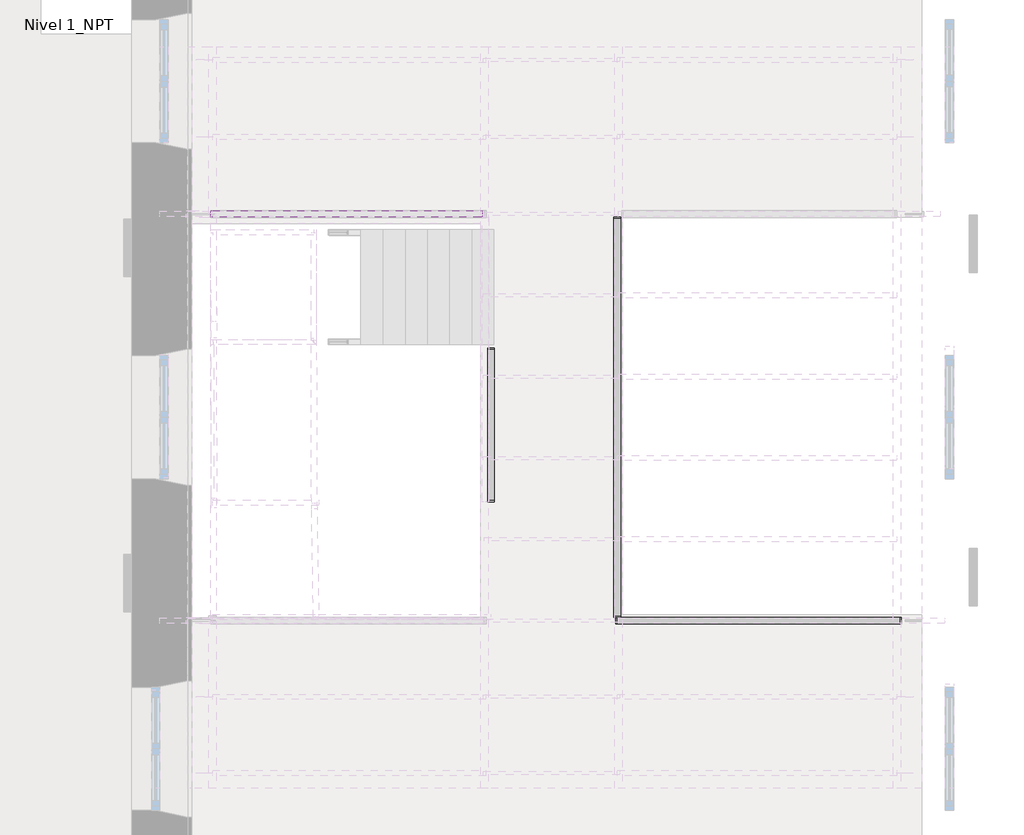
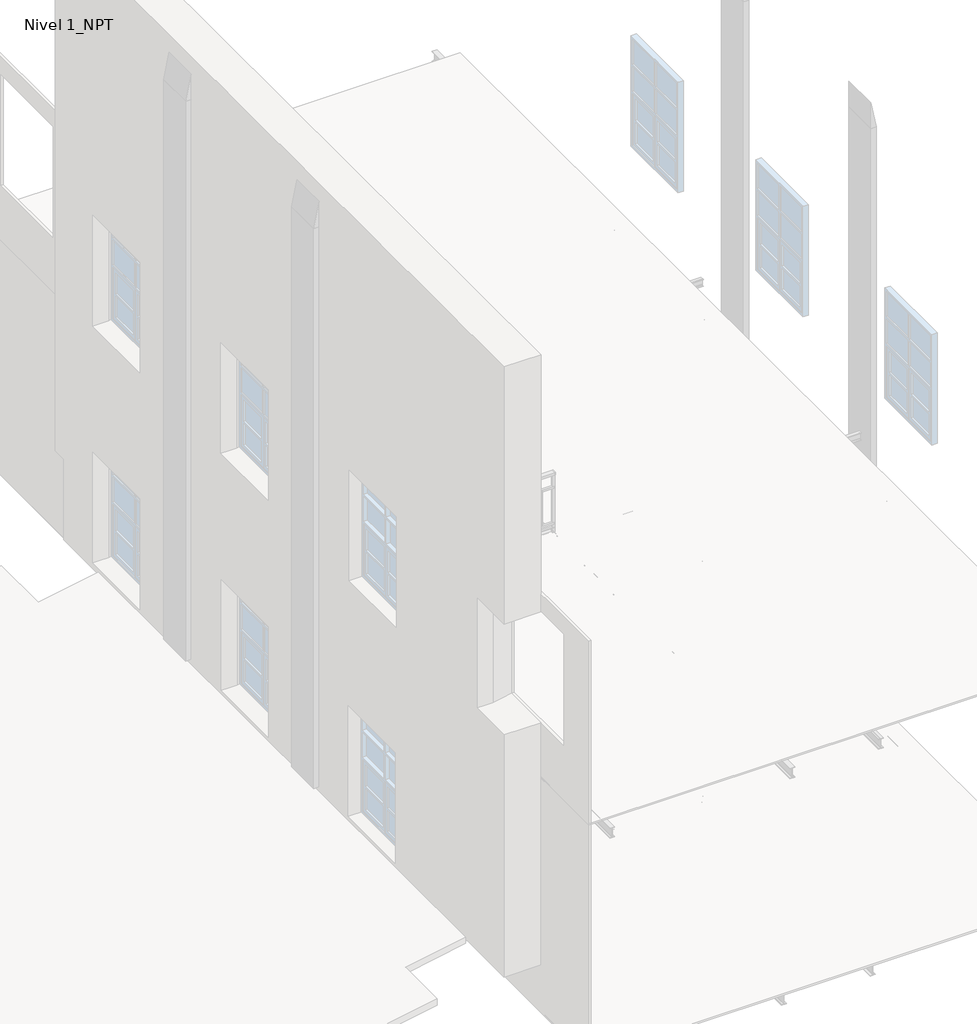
# One storey, part 5 of 6: 4 railings.
"""IFC4 building model written with IfcOpenShell, lengths in millimetres."""

from ifc_helpers import new_model, si_unit, point, frame, frame_2d, origin, place, context, project, spatial, polyline, circle_curve, trimmed, segment, composite_curve, outline, extrude, faceted_brep, element, save

model = new_model("IFC4")

# Units and contexts
model_context = context("Model", 3, world=origin())
ifc_project = project(units=[si_unit("LENGTHUNIT", "METRE", prefix="MILLI")], contexts=[model_context])

# Site, building, storey
site = spatial("IfcSite", under=ifc_project)
building = spatial("IfcBuilding", under=site)
storey = spatial("IfcBuildingStorey", under=building, Name="Nivel 1_NPT", Elevation=4940.0)

# Railings
placement = place(None, origin())
element("IfcRailing", 1, ObjectType="ARQ-BA-IN-118-Hi-Ba3", at=placement, inside=storey, context=model_context, shape_type="SolidModel", body=[
    faceted_brep([(11260.8126262, 1524.5940615, 6070.0), (11260.8126262, 1524.5940615, 6120.0), (14699.9777112, 1524.5940615, 6120.0), (14699.9777112, 1524.5940615, 6070.0), (11260.8126262, 1444.5940615, 6070.0), (14699.9777112, 1444.5940615, 6070.0), (11260.8126262, 1444.5940615, 6120.0), (14699.9777112, 1444.5940615, 6120.0), (14719.9777112, 1524.5940615, 6120.0), (14719.9777112, 1444.5940615, 6120.0), (14719.9777112, 1444.5940615, 6070.0), (14719.9777112, 1524.5940615, 6070.0), (11240.8126262, 1524.5940615, 6120.0), (11240.8126262, 1524.5940615, 6070.0), (11240.8126262, 1444.5940615, 6070.0), (11240.8126262, 1444.5940615, 6120.0)], [[[0, 1, 2, 3]], [[4, 0, 3, 5]], [[6, 4, 5, 7]], [[1, 6, 7, 2]], [[8, 9, 10, 11]], [[3, 2, 8, 11]], [[5, 3, 11, 10]], [[7, 5, 10, 9]], [[2, 7, 9, 8]], [[12, 13, 14, 15]], [[13, 12, 1, 0]], [[14, 13, 0, 4]], [[15, 14, 4, 6]], [[12, 15, 6, 1]]]),
    extrude(outline(polyline([(11260.8126262, 1464.5940615), (11260.8126262, 1504.5940615), (14699.9777112, 1504.5940615), (14699.9777112, 1464.5940615), (11260.8126262, 1464.5940615)])), frame((0.0, 0.0, 5800.0), z_axis=(0.0, 0.0, 1.0), x_axis=(1.0, 0.0, 0.0)), (0.0, 0.0, 1.0), 40.0),
    extrude(outline(polyline([(11260.8126262, 1464.5940615), (11260.8126262, 1504.5940615), (14699.9777112, 1504.5940615), (14699.9777112, 1464.5940615), (11260.8126262, 1464.5940615)])), frame((0.0, 0.0, 5100.0), z_axis=(0.0, 0.0, 1.0), x_axis=(1.0, 0.0, 0.0)), (0.0, 0.0, 1.0), 40.0),
    extrude(outline(polyline([(11260.8126262, 1464.5940615), (11260.8126262, 1504.5940615), (14699.9777112, 1504.5940615), (14699.9777112, 1464.5940615), (11260.8126262, 1464.5940615)])), frame((0.0, 0.0, 5034.0), z_axis=(0.0, 0.0, 1.0), x_axis=(1.0, 0.0, 0.0)), (0.0, 0.0, 1.0), 6.0),
    extrude(outline(composite_curve([segment(trimmed(circle_curve(frame_2d((14485.0298934, 1484.5940615)), 10.0), [point((14485.0298934, 1494.5940615))], [point((14485.0298934, 1474.5940615))], False, "CARTESIAN"), True, "CONTINUOUS"), segment(trimmed(circle_curve(frame_2d((14485.0298934, 1484.5940615)), 10.0), [point((14485.0298934, 1474.5940615))], [point((14485.0298934, 1494.5940615))], False, "CARTESIAN"), True, "CONTINUOUS")], self_intersect=False)), frame((0.0, 0.0, 5140.0), z_axis=(0.0, 0.0, 1.0), x_axis=(1.0, 0.0, 0.0)), (0.0, 0.0, 1.0), 660.0),
    extrude(outline(composite_curve([segment(trimmed(circle_curve(frame_2d((14270.0820755, 1484.5940615)), 10.0), [point((14270.0820755, 1494.5940615))], [point((14270.0820755, 1474.5940615))], False, "CARTESIAN"), True, "CONTINUOUS"), segment(trimmed(circle_curve(frame_2d((14270.0820755, 1484.5940615)), 10.0), [point((14270.0820755, 1474.5940615))], [point((14270.0820755, 1494.5940615))], False, "CARTESIAN"), True, "CONTINUOUS")], self_intersect=False)), frame((0.0, 0.0, 5140.0), z_axis=(0.0, 0.0, 1.0), x_axis=(1.0, 0.0, 0.0)), (0.0, 0.0, 1.0), 660.0),
    extrude(outline(composite_curve([segment(trimmed(circle_curve(frame_2d((14055.1342577, 1484.5940615)), 10.0), [point((14055.1342577, 1494.5940615))], [point((14055.1342577, 1474.5940615))], False, "CARTESIAN"), True, "CONTINUOUS"), segment(trimmed(circle_curve(frame_2d((14055.1342577, 1484.5940615)), 10.0), [point((14055.1342577, 1474.5940615))], [point((14055.1342577, 1494.5940615))], False, "CARTESIAN"), True, "CONTINUOUS")], self_intersect=False)), frame((0.0, 0.0, 5140.0), z_axis=(0.0, 0.0, 1.0), x_axis=(1.0, 0.0, 0.0)), (0.0, 0.0, 1.0), 660.0),
    extrude(outline(polyline([(13820.1864399, 1464.5940615), (13820.1864399, 1504.5940615), (13860.1864399, 1504.5940615), (13860.1864399, 1464.5940615), (13820.1864399, 1464.5940615)])), frame((0.0, 0.0, 4940.0), z_axis=(0.0, 0.0, 1.0), x_axis=(1.0, 0.0, 0.0)), (0.0, 0.0, 1.0), 1130.0),
    extrude(outline(composite_curve([segment(trimmed(circle_curve(frame_2d((13625.2386221, 1484.5940615)), 10.0), [point((13625.2386221, 1494.5940615))], [point((13625.2386221, 1474.5940615))], False, "CARTESIAN"), True, "CONTINUOUS"), segment(trimmed(circle_curve(frame_2d((13625.2386221, 1484.5940615)), 10.0), [point((13625.2386221, 1474.5940615))], [point((13625.2386221, 1494.5940615))], False, "CARTESIAN"), True, "CONTINUOUS")], self_intersect=False)), frame((0.0, 0.0, 5140.0), z_axis=(0.0, 0.0, 1.0), x_axis=(1.0, 0.0, 0.0)), (0.0, 0.0, 1.0), 660.0),
    extrude(outline(composite_curve([segment(trimmed(circle_curve(frame_2d((13410.2908043, 1484.5940615)), 10.0), [point((13410.2908043, 1494.5940615))], [point((13410.2908043, 1474.5940615))], False, "CARTESIAN"), True, "CONTINUOUS"), segment(trimmed(circle_curve(frame_2d((13410.2908043, 1484.5940615)), 10.0), [point((13410.2908043, 1474.5940615))], [point((13410.2908043, 1494.5940615))], False, "CARTESIAN"), True, "CONTINUOUS")], self_intersect=False)), frame((0.0, 0.0, 5140.0), z_axis=(0.0, 0.0, 1.0), x_axis=(1.0, 0.0, 0.0)), (0.0, 0.0, 1.0), 660.0),
    extrude(outline(composite_curve([segment(trimmed(circle_curve(frame_2d((13195.3429865, 1484.5940615)), 10.0), [point((13195.3429865, 1494.5940615))], [point((13195.3429865, 1474.5940615))], False, "CARTESIAN"), True, "CONTINUOUS"), segment(trimmed(circle_curve(frame_2d((13195.3429865, 1484.5940615)), 10.0), [point((13195.3429865, 1474.5940615))], [point((13195.3429865, 1494.5940615))], False, "CARTESIAN"), True, "CONTINUOUS")], self_intersect=False)), frame((0.0, 0.0, 5140.0), z_axis=(0.0, 0.0, 1.0), x_axis=(1.0, 0.0, 0.0)), (0.0, 0.0, 1.0), 660.0),
    extrude(outline(polyline([(12960.3951687, 1464.5940615), (12960.3951687, 1504.5940615), (13000.3951687, 1504.5940615), (13000.3951687, 1464.5940615), (12960.3951687, 1464.5940615)])), frame((0.0, 0.0, 4940.0), z_axis=(0.0, 0.0, 1.0), x_axis=(1.0, 0.0, 0.0)), (0.0, 0.0, 1.0), 1130.0),
    extrude(outline(composite_curve([segment(trimmed(circle_curve(frame_2d((12765.4473509, 1484.5940615)), 10.0), [point((12765.4473509, 1494.5940615))], [point((12765.4473509, 1474.5940615))], False, "CARTESIAN"), True, "CONTINUOUS"), segment(trimmed(circle_curve(frame_2d((12765.4473509, 1484.5940615)), 10.0), [point((12765.4473509, 1474.5940615))], [point((12765.4473509, 1494.5940615))], False, "CARTESIAN"), True, "CONTINUOUS")], self_intersect=False)), frame((0.0, 0.0, 5140.0), z_axis=(0.0, 0.0, 1.0), x_axis=(1.0, 0.0, 0.0)), (0.0, 0.0, 1.0), 660.0),
    extrude(outline(composite_curve([segment(trimmed(circle_curve(frame_2d((12550.4995331, 1484.5940615)), 10.0), [point((12550.4995331, 1494.5940615))], [point((12550.4995331, 1474.5940615))], False, "CARTESIAN"), True, "CONTINUOUS"), segment(trimmed(circle_curve(frame_2d((12550.4995331, 1484.5940615)), 10.0), [point((12550.4995331, 1474.5940615))], [point((12550.4995331, 1494.5940615))], False, "CARTESIAN"), True, "CONTINUOUS")], self_intersect=False)), frame((0.0, 0.0, 5140.0), z_axis=(0.0, 0.0, 1.0), x_axis=(1.0, 0.0, 0.0)), (0.0, 0.0, 1.0), 660.0),
    extrude(outline(composite_curve([segment(trimmed(circle_curve(frame_2d((12335.5517152, 1484.5940615)), 10.0), [point((12335.5517152, 1494.5940615))], [point((12335.5517152, 1474.5940615))], False, "CARTESIAN"), True, "CONTINUOUS"), segment(trimmed(circle_curve(frame_2d((12335.5517152, 1484.5940615)), 10.0), [point((12335.5517152, 1474.5940615))], [point((12335.5517152, 1494.5940615))], False, "CARTESIAN"), True, "CONTINUOUS")], self_intersect=False)), frame((0.0, 0.0, 5140.0), z_axis=(0.0, 0.0, 1.0), x_axis=(1.0, 0.0, 0.0)), (0.0, 0.0, 1.0), 660.0),
    extrude(outline(polyline([(12100.6038974, 1464.5940615), (12100.6038974, 1504.5940615), (12140.6038974, 1504.5940615), (12140.6038974, 1464.5940615), (12100.6038974, 1464.5940615)])), frame((0.0, 0.0, 4940.0), z_axis=(0.0, 0.0, 1.0), x_axis=(1.0, 0.0, 0.0)), (0.0, 0.0, 1.0), 1130.0),
    extrude(outline(composite_curve([segment(trimmed(circle_curve(frame_2d((11905.6560796, 1484.5940615)), 10.0), [point((11905.6560796, 1494.5940615))], [point((11905.6560796, 1474.5940615))], False, "CARTESIAN"), True, "CONTINUOUS"), segment(trimmed(circle_curve(frame_2d((11905.6560796, 1484.5940615)), 10.0), [point((11905.6560796, 1474.5940615))], [point((11905.6560796, 1494.5940615))], False, "CARTESIAN"), True, "CONTINUOUS")], self_intersect=False)), frame((0.0, 0.0, 5140.0), z_axis=(0.0, 0.0, 1.0), x_axis=(1.0, 0.0, 0.0)), (0.0, 0.0, 1.0), 660.0),
    extrude(outline(composite_curve([segment(trimmed(circle_curve(frame_2d((11690.7082618, 1484.5940615)), 10.0), [point((11690.7082618, 1494.5940615))], [point((11690.7082618, 1474.5940615))], False, "CARTESIAN"), True, "CONTINUOUS"), segment(trimmed(circle_curve(frame_2d((11690.7082618, 1484.5940615)), 10.0), [point((11690.7082618, 1474.5940615))], [point((11690.7082618, 1494.5940615))], False, "CARTESIAN"), True, "CONTINUOUS")], self_intersect=False)), frame((0.0, 0.0, 5140.0), z_axis=(0.0, 0.0, 1.0), x_axis=(1.0, 0.0, 0.0)), (0.0, 0.0, 1.0), 660.0),
    extrude(outline(composite_curve([segment(trimmed(circle_curve(frame_2d((11475.760444, 1484.5940615)), 10.0), [point((11475.760444, 1494.5940615))], [point((11475.760444, 1474.5940615))], False, "CARTESIAN"), True, "CONTINUOUS"), segment(trimmed(circle_curve(frame_2d((11475.760444, 1484.5940615)), 10.0), [point((11475.760444, 1474.5940615))], [point((11475.760444, 1494.5940615))], False, "CARTESIAN"), True, "CONTINUOUS")], self_intersect=False)), frame((0.0, 0.0, 5140.0), z_axis=(0.0, 0.0, 1.0), x_axis=(1.0, 0.0, 0.0)), (0.0, 0.0, 1.0), 660.0),
    extrude(outline(polyline([(14679.9777112, 1464.5940615), (14679.9777112, 1504.5940615), (14719.9777112, 1504.5940615), (14719.9777112, 1464.5940615), (14679.9777112, 1464.5940615)])), frame((0.0, 0.0, 4940.0), z_axis=(0.0, 0.0, 1.0), x_axis=(1.0, 0.0, 0.0)), (0.0, 0.0, 1.0), 1130.0),
    extrude(outline(polyline([(11240.8126262, 1464.5940615), (11240.8126262, 1504.5940615), (11280.8126262, 1504.5940615), (11280.8126262, 1464.5940615), (11240.8126262, 1464.5940615)])), frame((0.0, 0.0, 4940.0), z_axis=(0.0, 0.0, 1.0), x_axis=(1.0, 0.0, 0.0)), (0.0, 0.0, 1.0), 1130.0),
])
element("IfcRailing", 2, ObjectType="ARQ-BA-IN-118-Hi-Ba4", at=placement, inside=storey, context=model_context, shape_type="SolidModel", body=[
    faceted_brep([(11220.8126262, 1544.6072273, 6070.0), (11220.8126262, 1544.6072273, 6120.0), (11220.8126262, 6380.6072273, 6120.0), (11220.8126262, 6380.6072273, 6070.0), (11300.8126262, 1544.6072273, 6070.0), (11300.8126262, 6380.6072273, 6070.0), (11300.8126262, 1544.6072273, 6120.0), (11300.8126262, 6380.6072273, 6120.0), (11220.8126262, 6400.6072273, 6120.0), (11300.8126262, 6400.6072273, 6120.0), (11300.8126262, 6400.6072273, 6070.0), (11220.8126262, 6400.6072273, 6070.0), (11220.8126262, 1524.6072273, 6120.0), (11220.8126262, 1524.6072273, 6070.0), (11300.8126262, 1524.6072273, 6070.0), (11300.8126262, 1524.6072273, 6120.0)], [[[0, 1, 2, 3]], [[4, 0, 3, 5]], [[6, 4, 5, 7]], [[1, 6, 7, 2]], [[8, 9, 10, 11]], [[3, 2, 8, 11]], [[5, 3, 11, 10]], [[7, 5, 10, 9]], [[2, 7, 9, 8]], [[12, 13, 14, 15]], [[13, 12, 1, 0]], [[14, 13, 0, 4]], [[15, 14, 4, 6]], [[12, 15, 6, 1]]]),
    extrude(outline(polyline([(11280.8126262, 1544.6072273), (11240.8126262, 1544.6072273), (11240.8126262, 6380.6072273), (11280.8126262, 6380.6072273), (11280.8126262, 1544.6072273)])), frame((0.0, 0.0, 5800.0), z_axis=(0.0, 0.0, 1.0), x_axis=(1.0, 0.0, 0.0)), (0.0, 0.0, 1.0), 40.0),
    extrude(outline(polyline([(11280.8126262, 1544.6072273), (11240.8126262, 1544.6072273), (11240.8126262, 6380.6072273), (11280.8126262, 6380.6072273), (11280.8126262, 1544.6072273)])), frame((0.0, 0.0, 5100.0), z_axis=(0.0, 0.0, 1.0), x_axis=(1.0, 0.0, 0.0)), (0.0, 0.0, 1.0), 40.0),
    extrude(outline(polyline([(11280.8126262, 1544.6072273), (11240.8126262, 1544.6072273), (11240.8126262, 6380.6072273), (11280.8126262, 6380.6072273), (11280.8126262, 1544.6072273)])), frame((0.0, 0.0, 5034.0), z_axis=(0.0, 0.0, 1.0), x_axis=(1.0, 0.0, 0.0)), (0.0, 0.0, 1.0), 6.0),
    extrude(outline(composite_curve([segment(trimmed(circle_curve(frame_2d((11260.8126262, 6179.1072273)), 10.0), [point((11250.8126262, 6179.1072273))], [point((11270.8126262, 6179.1072273))], False, "CARTESIAN"), True, "CONTINUOUS"), segment(trimmed(circle_curve(frame_2d((11260.8126262, 6179.1072273)), 10.0), [point((11270.8126262, 6179.1072273))], [point((11250.8126262, 6179.1072273))], False, "CARTESIAN"), True, "CONTINUOUS")], self_intersect=False)), frame((0.0, 0.0, 5140.0), z_axis=(0.0, 0.0, 1.0), x_axis=(1.0, 0.0, 0.0)), (0.0, 0.0, 1.0), 660.0),
    extrude(outline(composite_curve([segment(trimmed(circle_curve(frame_2d((11260.8126262, 5977.6072273)), 10.0), [point((11250.8126262, 5977.6072273))], [point((11270.8126262, 5977.6072273))], False, "CARTESIAN"), True, "CONTINUOUS"), segment(trimmed(circle_curve(frame_2d((11260.8126262, 5977.6072273)), 10.0), [point((11270.8126262, 5977.6072273))], [point((11250.8126262, 5977.6072273))], False, "CARTESIAN"), True, "CONTINUOUS")], self_intersect=False)), frame((0.0, 0.0, 5140.0), z_axis=(0.0, 0.0, 1.0), x_axis=(1.0, 0.0, 0.0)), (0.0, 0.0, 1.0), 660.0),
    extrude(outline(composite_curve([segment(trimmed(circle_curve(frame_2d((11260.8126262, 5776.1072273)), 10.0), [point((11250.8126262, 5776.1072273))], [point((11270.8126262, 5776.1072273))], False, "CARTESIAN"), True, "CONTINUOUS"), segment(trimmed(circle_curve(frame_2d((11260.8126262, 5776.1072273)), 10.0), [point((11270.8126262, 5776.1072273))], [point((11250.8126262, 5776.1072273))], False, "CARTESIAN"), True, "CONTINUOUS")], self_intersect=False)), frame((0.0, 0.0, 5140.0), z_axis=(0.0, 0.0, 1.0), x_axis=(1.0, 0.0, 0.0)), (0.0, 0.0, 1.0), 660.0),
    extrude(outline(polyline([(11280.8126262, 5554.6072273), (11240.8126262, 5554.6072273), (11240.8126262, 5594.6072273), (11280.8126262, 5594.6072273), (11280.8126262, 5554.6072273)])), frame((0.0, 0.0, 4940.0), z_axis=(0.0, 0.0, 1.0), x_axis=(1.0, 0.0, 0.0)), (0.0, 0.0, 1.0), 1130.0),
    extrude(outline(composite_curve([segment(trimmed(circle_curve(frame_2d((11260.8126262, 5373.1072273)), 10.0), [point((11250.8126262, 5373.1072273))], [point((11270.8126262, 5373.1072273))], False, "CARTESIAN"), True, "CONTINUOUS"), segment(trimmed(circle_curve(frame_2d((11260.8126262, 5373.1072273)), 10.0), [point((11270.8126262, 5373.1072273))], [point((11250.8126262, 5373.1072273))], False, "CARTESIAN"), True, "CONTINUOUS")], self_intersect=False)), frame((0.0, 0.0, 5140.0), z_axis=(0.0, 0.0, 1.0), x_axis=(1.0, 0.0, 0.0)), (0.0, 0.0, 1.0), 660.0),
    extrude(outline(composite_curve([segment(trimmed(circle_curve(frame_2d((11260.8126262, 5171.6072273)), 10.0), [point((11250.8126262, 5171.6072273))], [point((11270.8126262, 5171.6072273))], False, "CARTESIAN"), True, "CONTINUOUS"), segment(trimmed(circle_curve(frame_2d((11260.8126262, 5171.6072273)), 10.0), [point((11270.8126262, 5171.6072273))], [point((11250.8126262, 5171.6072273))], False, "CARTESIAN"), True, "CONTINUOUS")], self_intersect=False)), frame((0.0, 0.0, 5140.0), z_axis=(0.0, 0.0, 1.0), x_axis=(1.0, 0.0, 0.0)), (0.0, 0.0, 1.0), 660.0),
    extrude(outline(composite_curve([segment(trimmed(circle_curve(frame_2d((11260.8126262, 4970.1072273)), 10.0), [point((11250.8126262, 4970.1072273))], [point((11270.8126262, 4970.1072273))], False, "CARTESIAN"), True, "CONTINUOUS"), segment(trimmed(circle_curve(frame_2d((11260.8126262, 4970.1072273)), 10.0), [point((11270.8126262, 4970.1072273))], [point((11250.8126262, 4970.1072273))], False, "CARTESIAN"), True, "CONTINUOUS")], self_intersect=False)), frame((0.0, 0.0, 5140.0), z_axis=(0.0, 0.0, 1.0), x_axis=(1.0, 0.0, 0.0)), (0.0, 0.0, 1.0), 660.0),
    extrude(outline(polyline([(11280.8126262, 4748.6072273), (11240.8126262, 4748.6072273), (11240.8126262, 4788.6072273), (11280.8126262, 4788.6072273), (11280.8126262, 4748.6072273)])), frame((0.0, 0.0, 4940.0), z_axis=(0.0, 0.0, 1.0), x_axis=(1.0, 0.0, 0.0)), (0.0, 0.0, 1.0), 1130.0),
    extrude(outline(composite_curve([segment(trimmed(circle_curve(frame_2d((11260.8126262, 4567.1072273)), 10.0), [point((11250.8126262, 4567.1072273))], [point((11270.8126262, 4567.1072273))], False, "CARTESIAN"), True, "CONTINUOUS"), segment(trimmed(circle_curve(frame_2d((11260.8126262, 4567.1072273)), 10.0), [point((11270.8126262, 4567.1072273))], [point((11250.8126262, 4567.1072273))], False, "CARTESIAN"), True, "CONTINUOUS")], self_intersect=False)), frame((0.0, 0.0, 5140.0), z_axis=(0.0, 0.0, 1.0), x_axis=(1.0, 0.0, 0.0)), (0.0, 0.0, 1.0), 660.0),
    extrude(outline(composite_curve([segment(trimmed(circle_curve(frame_2d((11260.8126262, 4365.6072273)), 10.0), [point((11250.8126262, 4365.6072273))], [point((11270.8126262, 4365.6072273))], False, "CARTESIAN"), True, "CONTINUOUS"), segment(trimmed(circle_curve(frame_2d((11260.8126262, 4365.6072273)), 10.0), [point((11270.8126262, 4365.6072273))], [point((11250.8126262, 4365.6072273))], False, "CARTESIAN"), True, "CONTINUOUS")], self_intersect=False)), frame((0.0, 0.0, 5140.0), z_axis=(0.0, 0.0, 1.0), x_axis=(1.0, 0.0, 0.0)), (0.0, 0.0, 1.0), 660.0),
    extrude(outline(composite_curve([segment(trimmed(circle_curve(frame_2d((11260.8126262, 4164.1072273)), 10.0), [point((11250.8126262, 4164.1072273))], [point((11270.8126262, 4164.1072273))], False, "CARTESIAN"), True, "CONTINUOUS"), segment(trimmed(circle_curve(frame_2d((11260.8126262, 4164.1072273)), 10.0), [point((11270.8126262, 4164.1072273))], [point((11250.8126262, 4164.1072273))], False, "CARTESIAN"), True, "CONTINUOUS")], self_intersect=False)), frame((0.0, 0.0, 5140.0), z_axis=(0.0, 0.0, 1.0), x_axis=(1.0, 0.0, 0.0)), (0.0, 0.0, 1.0), 660.0),
    extrude(outline(polyline([(11280.8126262, 3942.6072273), (11240.8126262, 3942.6072273), (11240.8126262, 3982.6072273), (11280.8126262, 3982.6072273), (11280.8126262, 3942.6072273)])), frame((0.0, 0.0, 4940.0), z_axis=(0.0, 0.0, 1.0), x_axis=(1.0, 0.0, 0.0)), (0.0, 0.0, 1.0), 1130.0),
    extrude(outline(composite_curve([segment(trimmed(circle_curve(frame_2d((11260.8126262, 3761.1072273)), 10.0), [point((11250.8126262, 3761.1072273))], [point((11270.8126262, 3761.1072273))], False, "CARTESIAN"), True, "CONTINUOUS"), segment(trimmed(circle_curve(frame_2d((11260.8126262, 3761.1072273)), 10.0), [point((11270.8126262, 3761.1072273))], [point((11250.8126262, 3761.1072273))], False, "CARTESIAN"), True, "CONTINUOUS")], self_intersect=False)), frame((0.0, 0.0, 5140.0), z_axis=(0.0, 0.0, 1.0), x_axis=(1.0, 0.0, 0.0)), (0.0, 0.0, 1.0), 660.0),
    extrude(outline(composite_curve([segment(trimmed(circle_curve(frame_2d((11260.8126262, 3559.6072273)), 10.0), [point((11250.8126262, 3559.6072273))], [point((11270.8126262, 3559.6072273))], False, "CARTESIAN"), True, "CONTINUOUS"), segment(trimmed(circle_curve(frame_2d((11260.8126262, 3559.6072273)), 10.0), [point((11270.8126262, 3559.6072273))], [point((11250.8126262, 3559.6072273))], False, "CARTESIAN"), True, "CONTINUOUS")], self_intersect=False)), frame((0.0, 0.0, 5140.0), z_axis=(0.0, 0.0, 1.0), x_axis=(1.0, 0.0, 0.0)), (0.0, 0.0, 1.0), 660.0),
    extrude(outline(composite_curve([segment(trimmed(circle_curve(frame_2d((11260.8126262, 3358.1072273)), 10.0), [point((11250.8126262, 3358.1072273))], [point((11270.8126262, 3358.1072273))], False, "CARTESIAN"), True, "CONTINUOUS"), segment(trimmed(circle_curve(frame_2d((11260.8126262, 3358.1072273)), 10.0), [point((11270.8126262, 3358.1072273))], [point((11250.8126262, 3358.1072273))], False, "CARTESIAN"), True, "CONTINUOUS")], self_intersect=False)), frame((0.0, 0.0, 5140.0), z_axis=(0.0, 0.0, 1.0), x_axis=(1.0, 0.0, 0.0)), (0.0, 0.0, 1.0), 660.0),
    extrude(outline(polyline([(11280.8126262, 3136.6072273), (11240.8126262, 3136.6072273), (11240.8126262, 3176.6072273), (11280.8126262, 3176.6072273), (11280.8126262, 3136.6072273)])), frame((0.0, 0.0, 4940.0), z_axis=(0.0, 0.0, 1.0), x_axis=(1.0, 0.0, 0.0)), (0.0, 0.0, 1.0), 1130.0),
    extrude(outline(composite_curve([segment(trimmed(circle_curve(frame_2d((11260.8126262, 2955.1072273)), 10.0), [point((11250.8126262, 2955.1072273))], [point((11270.8126262, 2955.1072273))], False, "CARTESIAN"), True, "CONTINUOUS"), segment(trimmed(circle_curve(frame_2d((11260.8126262, 2955.1072273)), 10.0), [point((11270.8126262, 2955.1072273))], [point((11250.8126262, 2955.1072273))], False, "CARTESIAN"), True, "CONTINUOUS")], self_intersect=False)), frame((0.0, 0.0, 5140.0), z_axis=(0.0, 0.0, 1.0), x_axis=(1.0, 0.0, 0.0)), (0.0, 0.0, 1.0), 660.0),
    extrude(outline(composite_curve([segment(trimmed(circle_curve(frame_2d((11260.8126262, 2753.6072273)), 10.0), [point((11250.8126262, 2753.6072273))], [point((11270.8126262, 2753.6072273))], False, "CARTESIAN"), True, "CONTINUOUS"), segment(trimmed(circle_curve(frame_2d((11260.8126262, 2753.6072273)), 10.0), [point((11270.8126262, 2753.6072273))], [point((11250.8126262, 2753.6072273))], False, "CARTESIAN"), True, "CONTINUOUS")], self_intersect=False)), frame((0.0, 0.0, 5140.0), z_axis=(0.0, 0.0, 1.0), x_axis=(1.0, 0.0, 0.0)), (0.0, 0.0, 1.0), 660.0),
    extrude(outline(composite_curve([segment(trimmed(circle_curve(frame_2d((11260.8126262, 2552.1072273)), 10.0), [point((11250.8126262, 2552.1072273))], [point((11270.8126262, 2552.1072273))], False, "CARTESIAN"), True, "CONTINUOUS"), segment(trimmed(circle_curve(frame_2d((11260.8126262, 2552.1072273)), 10.0), [point((11270.8126262, 2552.1072273))], [point((11250.8126262, 2552.1072273))], False, "CARTESIAN"), True, "CONTINUOUS")], self_intersect=False)), frame((0.0, 0.0, 5140.0), z_axis=(0.0, 0.0, 1.0), x_axis=(1.0, 0.0, 0.0)), (0.0, 0.0, 1.0), 660.0),
    extrude(outline(polyline([(11280.8126262, 2330.6072273), (11240.8126262, 2330.6072273), (11240.8126262, 2370.6072273), (11280.8126262, 2370.6072273), (11280.8126262, 2330.6072273)])), frame((0.0, 0.0, 4940.0), z_axis=(0.0, 0.0, 1.0), x_axis=(1.0, 0.0, 0.0)), (0.0, 0.0, 1.0), 1130.0),
    extrude(outline(composite_curve([segment(trimmed(circle_curve(frame_2d((11260.8126262, 2149.1072273)), 10.0), [point((11250.8126262, 2149.1072273))], [point((11270.8126262, 2149.1072273))], False, "CARTESIAN"), True, "CONTINUOUS"), segment(trimmed(circle_curve(frame_2d((11260.8126262, 2149.1072273)), 10.0), [point((11270.8126262, 2149.1072273))], [point((11250.8126262, 2149.1072273))], False, "CARTESIAN"), True, "CONTINUOUS")], self_intersect=False)), frame((0.0, 0.0, 5140.0), z_axis=(0.0, 0.0, 1.0), x_axis=(1.0, 0.0, 0.0)), (0.0, 0.0, 1.0), 660.0),
    extrude(outline(composite_curve([segment(trimmed(circle_curve(frame_2d((11260.8126262, 1947.6072273)), 10.0), [point((11250.8126262, 1947.6072273))], [point((11270.8126262, 1947.6072273))], False, "CARTESIAN"), True, "CONTINUOUS"), segment(trimmed(circle_curve(frame_2d((11260.8126262, 1947.6072273)), 10.0), [point((11270.8126262, 1947.6072273))], [point((11250.8126262, 1947.6072273))], False, "CARTESIAN"), True, "CONTINUOUS")], self_intersect=False)), frame((0.0, 0.0, 5140.0), z_axis=(0.0, 0.0, 1.0), x_axis=(1.0, 0.0, 0.0)), (0.0, 0.0, 1.0), 660.0),
    extrude(outline(composite_curve([segment(trimmed(circle_curve(frame_2d((11260.8126262, 1746.1072273)), 10.0), [point((11250.8126262, 1746.1072273))], [point((11270.8126262, 1746.1072273))], False, "CARTESIAN"), True, "CONTINUOUS"), segment(trimmed(circle_curve(frame_2d((11260.8126262, 1746.1072273)), 10.0), [point((11270.8126262, 1746.1072273))], [point((11250.8126262, 1746.1072273))], False, "CARTESIAN"), True, "CONTINUOUS")], self_intersect=False)), frame((0.0, 0.0, 5140.0), z_axis=(0.0, 0.0, 1.0), x_axis=(1.0, 0.0, 0.0)), (0.0, 0.0, 1.0), 660.0),
    extrude(outline(polyline([(11280.8126262, 6360.6072273), (11240.8126262, 6360.6072273), (11240.8126262, 6400.6072273), (11280.8126262, 6400.6072273), (11280.8126262, 6360.6072273)])), frame((0.0, 0.0, 4940.0), z_axis=(0.0, 0.0, 1.0), x_axis=(1.0, 0.0, 0.0)), (0.0, 0.0, 1.0), 1130.0),
    extrude(outline(polyline([(11280.8126262, 1524.6072273), (11240.8126262, 1524.6072273), (11240.8126262, 1564.6072273), (11280.8126262, 1564.6072273), (11280.8126262, 1524.6072273)])), frame((0.0, 0.0, 4940.0), z_axis=(0.0, 0.0, 1.0), x_axis=(1.0, 0.0, 0.0)), (0.0, 0.0, 1.0), 1130.0),
])
element("IfcRailing", 3, ObjectType="ARQ-BA-IN-118-Hi-Ba2", at=placement, inside=storey, context=model_context, shape_type="SolidModel", body=[
    faceted_brep([(9764.8126262, 4787.7248744, 6070.0), (9764.8126262, 4787.7248744, 6120.0), (9764.8126262, 2951.7500845, 6120.0), (9764.8126262, 2951.7500845, 6070.0), (9684.8126262, 4787.7248744, 6070.0), (9684.8126262, 2951.7500845, 6070.0), (9684.8126262, 4787.7248744, 6120.0), (9684.8126262, 2951.7500845, 6120.0), (9764.8126262, 2931.7500845, 6120.0), (9684.8126262, 2931.7500845, 6120.0), (9684.8126262, 2931.7500845, 6070.0), (9764.8126262, 2931.7500845, 6070.0), (9764.8126262, 4807.7248744, 6120.0), (9764.8126262, 4807.7248744, 6070.0), (9684.8126262, 4807.7248744, 6070.0), (9684.8126262, 4807.7248744, 6120.0)], [[[0, 1, 2, 3]], [[4, 0, 3, 5]], [[6, 4, 5, 7]], [[1, 6, 7, 2]], [[8, 9, 10, 11]], [[3, 2, 8, 11]], [[5, 3, 11, 10]], [[7, 5, 10, 9]], [[2, 7, 9, 8]], [[12, 13, 14, 15]], [[13, 12, 1, 0]], [[14, 13, 0, 4]], [[15, 14, 4, 6]], [[12, 15, 6, 1]]]),
    extrude(outline(polyline([(9704.8126262, 4787.7248744), (9744.8126262, 4787.7248744), (9744.8126262, 2951.7500845), (9704.8126262, 2951.7500845), (9704.8126262, 4787.7248744)])), frame((0.0, 0.0, 5800.0), z_axis=(0.0, 0.0, 1.0), x_axis=(1.0, 0.0, 0.0)), (0.0, 0.0, 1.0), 40.0),
    extrude(outline(polyline([(9704.8126262, 4787.7248744), (9744.8126262, 4787.7248744), (9744.8126262, 2951.7500845), (9704.8126262, 2951.7500845), (9704.8126262, 4787.7248744)])), frame((0.0, 0.0, 5100.0), z_axis=(0.0, 0.0, 1.0), x_axis=(1.0, 0.0, 0.0)), (0.0, 0.0, 1.0), 40.0),
    extrude(outline(polyline([(9704.8126262, 4787.7248744), (9744.8126262, 4787.7248744), (9744.8126262, 2951.7500845), (9704.8126262, 2951.7500845), (9704.8126262, 4787.7248744)])), frame((0.0, 0.0, 5034.0), z_axis=(0.0, 0.0, 1.0), x_axis=(1.0, 0.0, 0.0)), (0.0, 0.0, 1.0), 6.0),
    extrude(outline(composite_curve([segment(trimmed(circle_curve(frame_2d((9724.8126262, 3181.2469332)), 10.0), [point((9734.8126262, 3181.2469332))], [point((9714.8126262, 3181.2469332))], False, "CARTESIAN"), True, "CONTINUOUS"), segment(trimmed(circle_curve(frame_2d((9724.8126262, 3181.2469332)), 10.0), [point((9714.8126262, 3181.2469332))], [point((9734.8126262, 3181.2469332))], False, "CARTESIAN"), True, "CONTINUOUS")], self_intersect=False)), frame((0.0, 0.0, 5140.0), z_axis=(0.0, 0.0, 1.0), x_axis=(1.0, 0.0, 0.0)), (0.0, 0.0, 1.0), 660.0),
    extrude(outline(composite_curve([segment(trimmed(circle_curve(frame_2d((9724.8126262, 3410.743782)), 10.0), [point((9734.8126262, 3410.743782))], [point((9714.8126262, 3410.743782))], False, "CARTESIAN"), True, "CONTINUOUS"), segment(trimmed(circle_curve(frame_2d((9724.8126262, 3410.743782)), 10.0), [point((9714.8126262, 3410.743782))], [point((9734.8126262, 3410.743782))], False, "CARTESIAN"), True, "CONTINUOUS")], self_intersect=False)), frame((0.0, 0.0, 5140.0), z_axis=(0.0, 0.0, 1.0), x_axis=(1.0, 0.0, 0.0)), (0.0, 0.0, 1.0), 660.0),
    extrude(outline(composite_curve([segment(trimmed(circle_curve(frame_2d((9724.8126262, 3640.2406307)), 10.0), [point((9734.8126262, 3640.2406307))], [point((9714.8126262, 3640.2406307))], False, "CARTESIAN"), True, "CONTINUOUS"), segment(trimmed(circle_curve(frame_2d((9724.8126262, 3640.2406307)), 10.0), [point((9714.8126262, 3640.2406307))], [point((9734.8126262, 3640.2406307))], False, "CARTESIAN"), True, "CONTINUOUS")], self_intersect=False)), frame((0.0, 0.0, 5140.0), z_axis=(0.0, 0.0, 1.0), x_axis=(1.0, 0.0, 0.0)), (0.0, 0.0, 1.0), 660.0),
    extrude(outline(polyline([(9704.8126262, 3889.7374794), (9744.8126262, 3889.7374794), (9744.8126262, 3849.7374794), (9704.8126262, 3849.7374794), (9704.8126262, 3889.7374794)])), frame((0.0, 0.0, 4940.0), z_axis=(0.0, 0.0, 1.0), x_axis=(1.0, 0.0, 0.0)), (0.0, 0.0, 1.0), 1130.0),
    extrude(outline(composite_curve([segment(trimmed(circle_curve(frame_2d((9724.8126262, 4099.2343282)), 10.0), [point((9734.8126262, 4099.2343282))], [point((9714.8126262, 4099.2343282))], False, "CARTESIAN"), True, "CONTINUOUS"), segment(trimmed(circle_curve(frame_2d((9724.8126262, 4099.2343282)), 10.0), [point((9714.8126262, 4099.2343282))], [point((9734.8126262, 4099.2343282))], False, "CARTESIAN"), True, "CONTINUOUS")], self_intersect=False)), frame((0.0, 0.0, 5140.0), z_axis=(0.0, 0.0, 1.0), x_axis=(1.0, 0.0, 0.0)), (0.0, 0.0, 1.0), 660.0),
    extrude(outline(composite_curve([segment(trimmed(circle_curve(frame_2d((9724.8126262, 4328.7311769)), 10.0), [point((9734.8126262, 4328.7311769))], [point((9714.8126262, 4328.7311769))], False, "CARTESIAN"), True, "CONTINUOUS"), segment(trimmed(circle_curve(frame_2d((9724.8126262, 4328.7311769)), 10.0), [point((9714.8126262, 4328.7311769))], [point((9734.8126262, 4328.7311769))], False, "CARTESIAN"), True, "CONTINUOUS")], self_intersect=False)), frame((0.0, 0.0, 5140.0), z_axis=(0.0, 0.0, 1.0), x_axis=(1.0, 0.0, 0.0)), (0.0, 0.0, 1.0), 660.0),
    extrude(outline(composite_curve([segment(trimmed(circle_curve(frame_2d((9724.8126262, 4558.2280256)), 10.0), [point((9734.8126262, 4558.2280256))], [point((9714.8126262, 4558.2280256))], False, "CARTESIAN"), True, "CONTINUOUS"), segment(trimmed(circle_curve(frame_2d((9724.8126262, 4558.2280256)), 10.0), [point((9714.8126262, 4558.2280256))], [point((9734.8126262, 4558.2280256))], False, "CARTESIAN"), True, "CONTINUOUS")], self_intersect=False)), frame((0.0, 0.0, 5140.0), z_axis=(0.0, 0.0, 1.0), x_axis=(1.0, 0.0, 0.0)), (0.0, 0.0, 1.0), 660.0),
    extrude(outline(polyline([(9704.8126262, 2971.7500845), (9744.8126262, 2971.7500845), (9744.8126262, 2931.7500845), (9704.8126262, 2931.7500845), (9704.8126262, 2971.7500845)])), frame((0.0, 0.0, 4940.0), z_axis=(0.0, 0.0, 1.0), x_axis=(1.0, 0.0, 0.0)), (0.0, 0.0, 1.0), 1130.0),
    extrude(outline(polyline([(9704.8126262, 4807.7248744), (9744.8126262, 4807.7248744), (9744.8126262, 4767.7248744), (9704.8126262, 4767.7248744), (9704.8126262, 4807.7248744)])), frame((0.0, 0.0, 4940.0), z_axis=(0.0, 0.0, 1.0), x_axis=(1.0, 0.0, 0.0)), (0.0, 0.0, 1.0), 1130.0),
])
element("IfcRailing", 4, ObjectType="ARQ-BA-IN-118-Hi-Ba1", at=placement, inside=storey, context=model_context, shape_type="SolidModel", body=[
    faceted_brep([(6314.8126262, 6475.6072273, 10680.0), (6314.8126262, 6475.6072273, 10630.0), (6314.8126262, 6395.6072273, 10630.0), (6314.8126262, 6395.6072273, 10680.0), (6334.8126262, 6475.6072273, 10680.0), (6334.8126262, 6475.6072273, 10630.0), (6334.8126262, 6395.6072273, 10630.0), (6334.8126262, 6395.6072273, 10680.0), (9596.8126262, 6475.6072273, 10680.0), (9596.8126262, 6475.6072273, 10630.0), (9596.8126262, 6395.6072273, 10630.0), (9596.8126262, 6395.6072273, 10680.0), (9616.8126262, 6475.6072273, 10680.0), (9616.8126262, 6395.6072273, 10680.0), (9616.8126262, 6395.6072273, 10630.0), (9616.8126262, 6475.6072273, 10630.0)], [[[0, 1, 2, 3]], [[1, 0, 4, 5]], [[2, 1, 5, 6]], [[3, 2, 6, 7]], [[0, 3, 7, 4]], [[5, 4, 8, 9]], [[6, 5, 9, 10]], [[7, 6, 10, 11]], [[4, 7, 11, 8]], [[12, 13, 14, 15]], [[9, 8, 12, 15]], [[10, 9, 15, 14]], [[11, 10, 14, 13]], [[8, 11, 13, 12]]]),
    extrude(outline(polyline([(6334.8126262, 6415.6072273), (6334.8126262, 6455.6072273), (9596.8126262, 6455.6072273), (9596.8126262, 6415.6072273), (6334.8126262, 6415.6072273)])), frame((0.0, 0.0, 10360.0), z_axis=(0.0, 0.0, 1.0), x_axis=(1.0, 0.0, 0.0)), (0.0, 0.0, 1.0), 40.0),
    extrude(outline(polyline([(6334.8126262, 6415.6072273), (6334.8126262, 6455.6072273), (9596.8126262, 6455.6072273), (9596.8126262, 6415.6072273), (6334.8126262, 6415.6072273)])), frame((0.0, 0.0, 9660.0), z_axis=(0.0, 0.0, 1.0), x_axis=(1.0, 0.0, 0.0)), (0.0, 0.0, 1.0), 40.0),
    extrude(outline(polyline([(6334.8126262, 6415.6072273), (6334.8126262, 6455.6072273), (9596.8126262, 6455.6072273), (9596.8126262, 6415.6072273), (6334.8126262, 6415.6072273)])), frame((0.0, 0.0, 9594.0), z_axis=(0.0, 0.0, 1.0), x_axis=(1.0, 0.0, 0.0)), (0.0, 0.0, 1.0), 6.0),
    extrude(outline(composite_curve([segment(trimmed(circle_curve(frame_2d((9392.9376262, 6435.6072273)), 10.0), [point((9392.9376262, 6445.6072273))], [point((9392.9376262, 6425.6072273))], False, "CARTESIAN"), True, "CONTINUOUS"), segment(trimmed(circle_curve(frame_2d((9392.9376262, 6435.6072273)), 10.0), [point((9392.9376262, 6425.6072273))], [point((9392.9376262, 6445.6072273))], False, "CARTESIAN"), True, "CONTINUOUS")], self_intersect=False)), frame((0.0, 0.0, 9700.0), z_axis=(0.0, 0.0, 1.0), x_axis=(1.0, 0.0, 0.0)), (0.0, 0.0, 1.0), 660.0),
    extrude(outline(composite_curve([segment(trimmed(circle_curve(frame_2d((9189.0626262, 6435.6072273)), 10.0), [point((9189.0626262, 6445.6072273))], [point((9189.0626262, 6425.6072273))], False, "CARTESIAN"), True, "CONTINUOUS"), segment(trimmed(circle_curve(frame_2d((9189.0626262, 6435.6072273)), 10.0), [point((9189.0626262, 6425.6072273))], [point((9189.0626262, 6445.6072273))], False, "CARTESIAN"), True, "CONTINUOUS")], self_intersect=False)), frame((0.0, 0.0, 9700.0), z_axis=(0.0, 0.0, 1.0), x_axis=(1.0, 0.0, 0.0)), (0.0, 0.0, 1.0), 660.0),
    extrude(outline(composite_curve([segment(trimmed(circle_curve(frame_2d((8985.1876262, 6435.6072273)), 10.0), [point((8985.1876262, 6445.6072273))], [point((8985.1876262, 6425.6072273))], False, "CARTESIAN"), True, "CONTINUOUS"), segment(trimmed(circle_curve(frame_2d((8985.1876262, 6435.6072273)), 10.0), [point((8985.1876262, 6425.6072273))], [point((8985.1876262, 6445.6072273))], False, "CARTESIAN"), True, "CONTINUOUS")], self_intersect=False)), frame((0.0, 0.0, 9700.0), z_axis=(0.0, 0.0, 1.0), x_axis=(1.0, 0.0, 0.0)), (0.0, 0.0, 1.0), 660.0),
    extrude(outline(polyline([(8761.3126262, 6415.6072273), (8761.3126262, 6455.6072273), (8801.3126262, 6455.6072273), (8801.3126262, 6415.6072273), (8761.3126262, 6415.6072273)])), frame((0.0, 0.0, 9500.0), z_axis=(0.0, 0.0, 1.0), x_axis=(1.0, 0.0, 0.0)), (0.0, 0.0, 1.0), 1130.0),
    extrude(outline(composite_curve([segment(trimmed(circle_curve(frame_2d((8577.4376262, 6435.6072273)), 10.0), [point((8577.4376262, 6445.6072273))], [point((8577.4376262, 6425.6072273))], False, "CARTESIAN"), True, "CONTINUOUS"), segment(trimmed(circle_curve(frame_2d((8577.4376262, 6435.6072273)), 10.0), [point((8577.4376262, 6425.6072273))], [point((8577.4376262, 6445.6072273))], False, "CARTESIAN"), True, "CONTINUOUS")], self_intersect=False)), frame((0.0, 0.0, 9700.0), z_axis=(0.0, 0.0, 1.0), x_axis=(1.0, 0.0, 0.0)), (0.0, 0.0, 1.0), 660.0),
    extrude(outline(composite_curve([segment(trimmed(circle_curve(frame_2d((8373.5626262, 6435.6072273)), 10.0), [point((8373.5626262, 6445.6072273))], [point((8373.5626262, 6425.6072273))], False, "CARTESIAN"), True, "CONTINUOUS"), segment(trimmed(circle_curve(frame_2d((8373.5626262, 6435.6072273)), 10.0), [point((8373.5626262, 6425.6072273))], [point((8373.5626262, 6445.6072273))], False, "CARTESIAN"), True, "CONTINUOUS")], self_intersect=False)), frame((0.0, 0.0, 9700.0), z_axis=(0.0, 0.0, 1.0), x_axis=(1.0, 0.0, 0.0)), (0.0, 0.0, 1.0), 660.0),
    extrude(outline(composite_curve([segment(trimmed(circle_curve(frame_2d((8169.6876262, 6435.6072273)), 10.0), [point((8169.6876262, 6445.6072273))], [point((8169.6876262, 6425.6072273))], False, "CARTESIAN"), True, "CONTINUOUS"), segment(trimmed(circle_curve(frame_2d((8169.6876262, 6435.6072273)), 10.0), [point((8169.6876262, 6425.6072273))], [point((8169.6876262, 6445.6072273))], False, "CARTESIAN"), True, "CONTINUOUS")], self_intersect=False)), frame((0.0, 0.0, 9700.0), z_axis=(0.0, 0.0, 1.0), x_axis=(1.0, 0.0, 0.0)), (0.0, 0.0, 1.0), 660.0),
    extrude(outline(polyline([(7945.8126262, 6415.6072273), (7945.8126262, 6455.6072273), (7985.8126262, 6455.6072273), (7985.8126262, 6415.6072273), (7945.8126262, 6415.6072273)])), frame((0.0, 0.0, 9500.0), z_axis=(0.0, 0.0, 1.0), x_axis=(1.0, 0.0, 0.0)), (0.0, 0.0, 1.0), 1130.0),
    extrude(outline(composite_curve([segment(trimmed(circle_curve(frame_2d((7761.9376262, 6435.6072273)), 10.0), [point((7761.9376262, 6445.6072273))], [point((7761.9376262, 6425.6072273))], False, "CARTESIAN"), True, "CONTINUOUS"), segment(trimmed(circle_curve(frame_2d((7761.9376262, 6435.6072273)), 10.0), [point((7761.9376262, 6425.6072273))], [point((7761.9376262, 6445.6072273))], False, "CARTESIAN"), True, "CONTINUOUS")], self_intersect=False)), frame((0.0, 0.0, 9700.0), z_axis=(0.0, 0.0, 1.0), x_axis=(1.0, 0.0, 0.0)), (0.0, 0.0, 1.0), 660.0),
    extrude(outline(composite_curve([segment(trimmed(circle_curve(frame_2d((7558.0626262, 6435.6072273)), 10.0), [point((7558.0626262, 6445.6072273))], [point((7558.0626262, 6425.6072273))], False, "CARTESIAN"), True, "CONTINUOUS"), segment(trimmed(circle_curve(frame_2d((7558.0626262, 6435.6072273)), 10.0), [point((7558.0626262, 6425.6072273))], [point((7558.0626262, 6445.6072273))], False, "CARTESIAN"), True, "CONTINUOUS")], self_intersect=False)), frame((0.0, 0.0, 9700.0), z_axis=(0.0, 0.0, 1.0), x_axis=(1.0, 0.0, 0.0)), (0.0, 0.0, 1.0), 660.0),
    extrude(outline(composite_curve([segment(trimmed(circle_curve(frame_2d((7354.1876262, 6435.6072273)), 10.0), [point((7354.1876262, 6445.6072273))], [point((7354.1876262, 6425.6072273))], False, "CARTESIAN"), True, "CONTINUOUS"), segment(trimmed(circle_curve(frame_2d((7354.1876262, 6435.6072273)), 10.0), [point((7354.1876262, 6425.6072273))], [point((7354.1876262, 6445.6072273))], False, "CARTESIAN"), True, "CONTINUOUS")], self_intersect=False)), frame((0.0, 0.0, 9700.0), z_axis=(0.0, 0.0, 1.0), x_axis=(1.0, 0.0, 0.0)), (0.0, 0.0, 1.0), 660.0),
    extrude(outline(polyline([(7130.3126262, 6415.6072273), (7130.3126262, 6455.6072273), (7170.3126262, 6455.6072273), (7170.3126262, 6415.6072273), (7130.3126262, 6415.6072273)])), frame((0.0, 0.0, 9500.0), z_axis=(0.0, 0.0, 1.0), x_axis=(1.0, 0.0, 0.0)), (0.0, 0.0, 1.0), 1130.0),
    extrude(outline(composite_curve([segment(trimmed(circle_curve(frame_2d((6946.4376262, 6435.6072273)), 10.0), [point((6946.4376262, 6445.6072273))], [point((6946.4376262, 6425.6072273))], False, "CARTESIAN"), True, "CONTINUOUS"), segment(trimmed(circle_curve(frame_2d((6946.4376262, 6435.6072273)), 10.0), [point((6946.4376262, 6425.6072273))], [point((6946.4376262, 6445.6072273))], False, "CARTESIAN"), True, "CONTINUOUS")], self_intersect=False)), frame((0.0, 0.0, 9700.0), z_axis=(0.0, 0.0, 1.0), x_axis=(1.0, 0.0, 0.0)), (0.0, 0.0, 1.0), 660.0),
    extrude(outline(composite_curve([segment(trimmed(circle_curve(frame_2d((6742.5626262, 6435.6072273)), 10.0), [point((6742.5626262, 6445.6072273))], [point((6742.5626262, 6425.6072273))], False, "CARTESIAN"), True, "CONTINUOUS"), segment(trimmed(circle_curve(frame_2d((6742.5626262, 6435.6072273)), 10.0), [point((6742.5626262, 6425.6072273))], [point((6742.5626262, 6445.6072273))], False, "CARTESIAN"), True, "CONTINUOUS")], self_intersect=False)), frame((0.0, 0.0, 9700.0), z_axis=(0.0, 0.0, 1.0), x_axis=(1.0, 0.0, 0.0)), (0.0, 0.0, 1.0), 660.0),
    extrude(outline(composite_curve([segment(trimmed(circle_curve(frame_2d((6538.6876262, 6435.6072273)), 10.0), [point((6538.6876262, 6445.6072273))], [point((6538.6876262, 6425.6072273))], False, "CARTESIAN"), True, "CONTINUOUS"), segment(trimmed(circle_curve(frame_2d((6538.6876262, 6435.6072273)), 10.0), [point((6538.6876262, 6425.6072273))], [point((6538.6876262, 6445.6072273))], False, "CARTESIAN"), True, "CONTINUOUS")], self_intersect=False)), frame((0.0, 0.0, 9700.0), z_axis=(0.0, 0.0, 1.0), x_axis=(1.0, 0.0, 0.0)), (0.0, 0.0, 1.0), 660.0),
    extrude(outline(polyline([(9576.8126262, 6415.6072273), (9576.8126262, 6455.6072273), (9616.8126262, 6455.6072273), (9616.8126262, 6415.6072273), (9576.8126262, 6415.6072273)])), frame((0.0, 0.0, 9500.0), z_axis=(0.0, 0.0, 1.0), x_axis=(1.0, 0.0, 0.0)), (0.0, 0.0, 1.0), 1130.0),
    extrude(outline(polyline([(6314.8126262, 6415.6072273), (6314.8126262, 6455.6072273), (6354.8126262, 6455.6072273), (6354.8126262, 6415.6072273), (6314.8126262, 6415.6072273)])), frame((0.0, 0.0, 9500.0), z_axis=(0.0, 0.0, 1.0), x_axis=(1.0, 0.0, 0.0)), (0.0, 0.0, 1.0), 1130.0),
])

save(model, "model.ifc")
